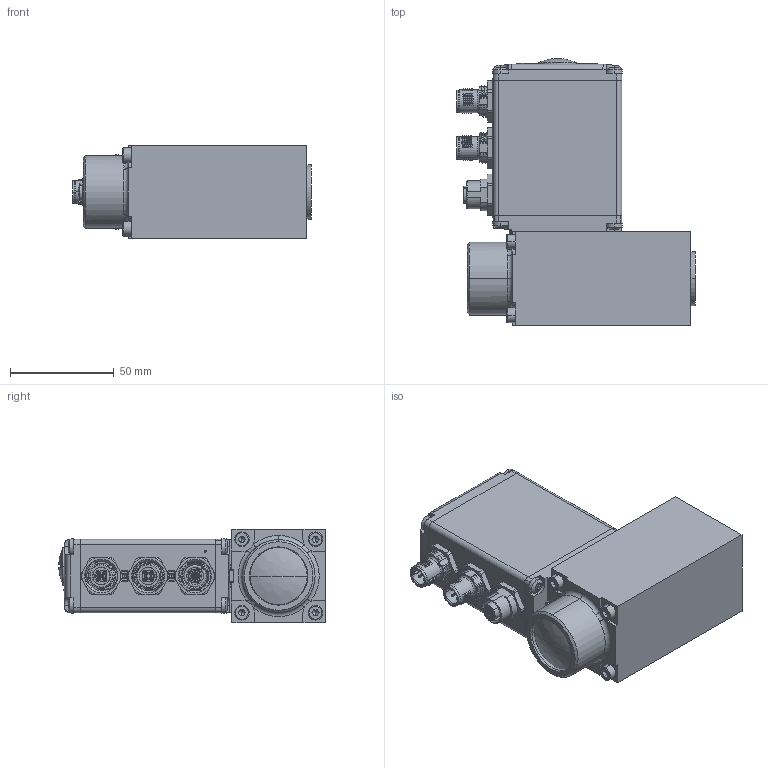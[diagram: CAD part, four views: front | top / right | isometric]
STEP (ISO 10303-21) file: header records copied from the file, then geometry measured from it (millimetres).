
FILE_DESCRIPTION (( 'STEP AP203' ), '1' );
FILE_NAME ('PI45PV-P1-24C.R..STEP', '2014-07-14T12:59:13', ( '' ), ( '' ), 'SwSTEP 2.0', 'SolidWorks 2014', '' );
FILE_SCHEMA (( 'CONFIG_CONTROL_DESIGN' ));
Products named in the file (2): PI45PV-P1-24C.R.
Bounding box: 114.9 x 128.39 x 45 mm (x, y, z)
Volume: 267647.9 mm3; surface area: 96828.5 mm2
Topology: 33 solids, 33 shells, 3682 faces, 9798 edges, 6298 vertices
Faces by surface type: plane 1699, cylinder 1200, torus 287, cone 274, bspline 190, sphere 32
Entity records: 141918 total; most frequent: CARTESIAN_POINT 51769, ORIENTED_EDGE 19500, DIRECTION 17806, EDGE_CURVE 9750, VERTEX_POINT 6298, AXIS2_PLACEMENT_3D 6013, VECTOR 5780, LINE 5780
